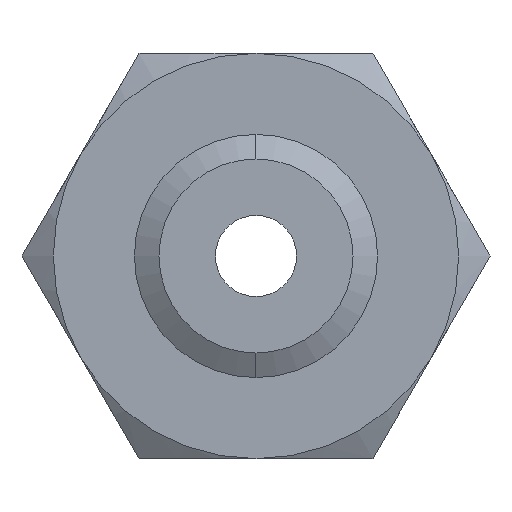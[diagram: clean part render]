
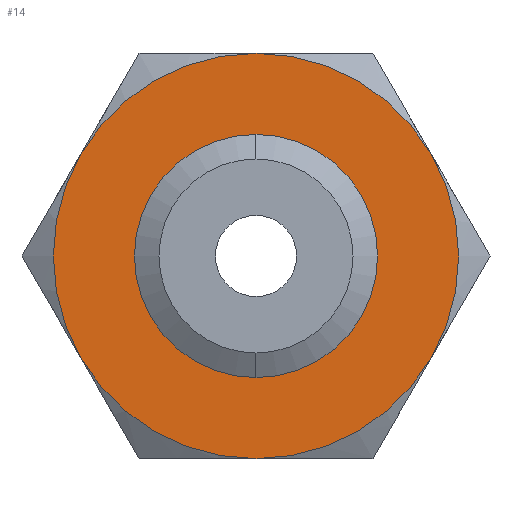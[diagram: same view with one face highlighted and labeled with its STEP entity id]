
A CAD part, front view. The second image highlights one B-rep face of the part: STEP entity #14.
In plain terms, the highlighted planar face has unit normal (0, -1, 0).
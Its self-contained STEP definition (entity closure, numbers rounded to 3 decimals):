
#14 = ADVANCED_FACE ( 'NONE', ( #563, #557 ), #556, .F. ) ;
#25 = ORIENTED_EDGE ( 'NONE', *, *, #42, .F. ) ;
#27 = VERTEX_POINT ( 'NONE', #590 ) ;
#29 = ORIENTED_EDGE ( 'NONE', *, *, #32, .F. ) ;
#32 = EDGE_CURVE ( 'NONE', #43, #33, #582, .T. ) ;
#33 = VERTEX_POINT ( 'NONE', #574 ) ;
#34 = EDGE_LOOP ( 'NONE', ( #25, #44, #37, #29, #45, #355 ) ) ;
#35 = VERTEX_POINT ( 'NONE', #573 ) ;
#36 = EDGE_CURVE ( 'NONE', #41, #35, #572, .T. ) ;
#37 = ORIENTED_EDGE ( 'NONE', *, *, #40, .F. ) ;
#38 = EDGE_CURVE ( 'NONE', #39, #43, #567, .T. ) ;
#39 = VERTEX_POINT ( 'NONE', #623 ) ;
#40 = EDGE_CURVE ( 'NONE', #33, #41, #622, .T. ) ;
#41 = VERTEX_POINT ( 'NONE', #617 ) ;
#42 = EDGE_CURVE ( 'NONE', #35, #27, #616, .T. ) ;
#43 = VERTEX_POINT ( 'NONE', #611 ) ;
#44 = ORIENTED_EDGE ( 'NONE', *, *, #36, .F. ) ;
#45 = ORIENTED_EDGE ( 'NONE', *, *, #38, .F. ) ;
#98 = ORIENTED_EDGE ( 'NONE', *, *, #311, .F. ) ;
#108 = EDGE_CURVE ( 'NONE', #313, #312, #667, .T. ) ;
#215 = ORIENTED_EDGE ( 'NONE', *, *, #108, .F. ) ;
#311 = EDGE_CURVE ( 'NONE', #312, #313, #1104, .T. ) ;
#312 = VERTEX_POINT ( 'NONE', #1099 ) ;
#313 = VERTEX_POINT ( 'NONE', #1098 ) ;
#355 = ORIENTED_EDGE ( 'NONE', *, *, #502, .F. ) ;
#501 = EDGE_LOOP ( 'NONE', ( #98, #215 ) ) ;
#502 = EDGE_CURVE ( 'NONE', #27, #39, #1423, .T. ) ;
#551 = DIRECTION ( 'NONE',  ( 0., 0., 1. ) ) ;
#552 = DIRECTION ( 'NONE',  ( 0., 1., 0. ) ) ;
#553 = CARTESIAN_POINT ( 'NONE',  ( 14.434, 0., -25. ) ) ;
#555 = AXIS2_PLACEMENT_3D ( 'NONE', #553, #552, #551 ) ;
#556 = PLANE ( 'NONE',  #555 ) ;
#557 = FACE_BOUND ( 'NONE', #501, .T. ) ;
#563 = FACE_OUTER_BOUND ( 'NONE', #34, .T. ) ;
#564 = DIRECTION ( 'NONE',  ( 0., 1., 0. ) ) ;
#565 = CARTESIAN_POINT ( 'NONE',  ( 0., 0., 0. ) ) ;
#566 = AXIS2_PLACEMENT_3D ( 'NONE', #565, #564, #624 ) ;
#567 = CIRCLE ( 'NONE', #566, 25. ) ;
#568 = DIRECTION ( 'NONE',  ( 0., 0., 1. ) ) ;
#569 = DIRECTION ( 'NONE',  ( 0., 1., 0. ) ) ;
#570 = CARTESIAN_POINT ( 'NONE',  ( 0., 0., 0. ) ) ;
#571 = AXIS2_PLACEMENT_3D ( 'NONE', #570, #569, #568 ) ;
#572 = CIRCLE ( 'NONE', #571, 25. ) ;
#573 = CARTESIAN_POINT ( 'NONE',  ( 0., 0., 25. ) ) ;
#574 = CARTESIAN_POINT ( 'NONE',  ( -21.651, 0., -12.5 ) ) ;
#575 = DIRECTION ( 'NONE',  ( 0., 0., 1. ) ) ;
#576 = DIRECTION ( 'NONE',  ( 0., 1., 0. ) ) ;
#577 = CARTESIAN_POINT ( 'NONE',  ( 0., 0., 0. ) ) ;
#578 = AXIS2_PLACEMENT_3D ( 'NONE', #577, #576, #575 ) ;
#582 = CIRCLE ( 'NONE', #578, 25. ) ;
#590 = CARTESIAN_POINT ( 'NONE',  ( 21.651, 0., 12.5 ) ) ;
#611 = CARTESIAN_POINT ( 'NONE',  ( 0., 0., -25. ) ) ;
#612 = DIRECTION ( 'NONE',  ( 0., 0., 1. ) ) ;
#613 = DIRECTION ( 'NONE',  ( 0., 1., 0. ) ) ;
#614 = CARTESIAN_POINT ( 'NONE',  ( 0., 0., 0. ) ) ;
#615 = AXIS2_PLACEMENT_3D ( 'NONE', #614, #613, #612 ) ;
#616 = CIRCLE ( 'NONE', #615, 25. ) ;
#617 = CARTESIAN_POINT ( 'NONE',  ( -21.651, 0., 12.5 ) ) ;
#618 = DIRECTION ( 'NONE',  ( 0., 0., 1. ) ) ;
#619 = DIRECTION ( 'NONE',  ( 0., 1., 0. ) ) ;
#620 = CARTESIAN_POINT ( 'NONE',  ( 0., 0., 0. ) ) ;
#621 = AXIS2_PLACEMENT_3D ( 'NONE', #620, #619, #618 ) ;
#622 = CIRCLE ( 'NONE', #621, 25. ) ;
#623 = CARTESIAN_POINT ( 'NONE',  ( 21.651, 0., -12.5 ) ) ;
#624 = DIRECTION ( 'NONE',  ( 0., 0., 1. ) ) ;
#664 = DIRECTION ( 'NONE',  ( 0., 0., -1. ) ) ;
#665 = DIRECTION ( 'NONE',  ( 0., -1., 0. ) ) ;
#666 = AXIS2_PLACEMENT_3D ( 'NONE', #673, #665, #664 ) ;
#667 = CIRCLE ( 'NONE', #666, 11.969 ) ;
#673 = CARTESIAN_POINT ( 'NONE',  ( 0., 0., 0. ) ) ;
#1098 = CARTESIAN_POINT ( 'NONE',  ( 0., 0., 11.969 ) ) ;
#1099 = CARTESIAN_POINT ( 'NONE',  ( 0., 0., -11.969 ) ) ;
#1100 = DIRECTION ( 'NONE',  ( 0., 0., -1. ) ) ;
#1101 = DIRECTION ( 'NONE',  ( 0., -1., 0. ) ) ;
#1102 = CARTESIAN_POINT ( 'NONE',  ( 0., 0., 0. ) ) ;
#1103 = AXIS2_PLACEMENT_3D ( 'NONE', #1102, #1101, #1100 ) ;
#1104 = CIRCLE ( 'NONE', #1103, 11.969 ) ;
#1420 = DIRECTION ( 'NONE',  ( 0., 0., 1. ) ) ;
#1421 = DIRECTION ( 'NONE',  ( 0., 1., 0. ) ) ;
#1422 = AXIS2_PLACEMENT_3D ( 'NONE', #1429, #1421, #1420 ) ;
#1423 = CIRCLE ( 'NONE', #1422, 25. ) ;
#1429 = CARTESIAN_POINT ( 'NONE',  ( 0., 0., 0. ) ) ;
